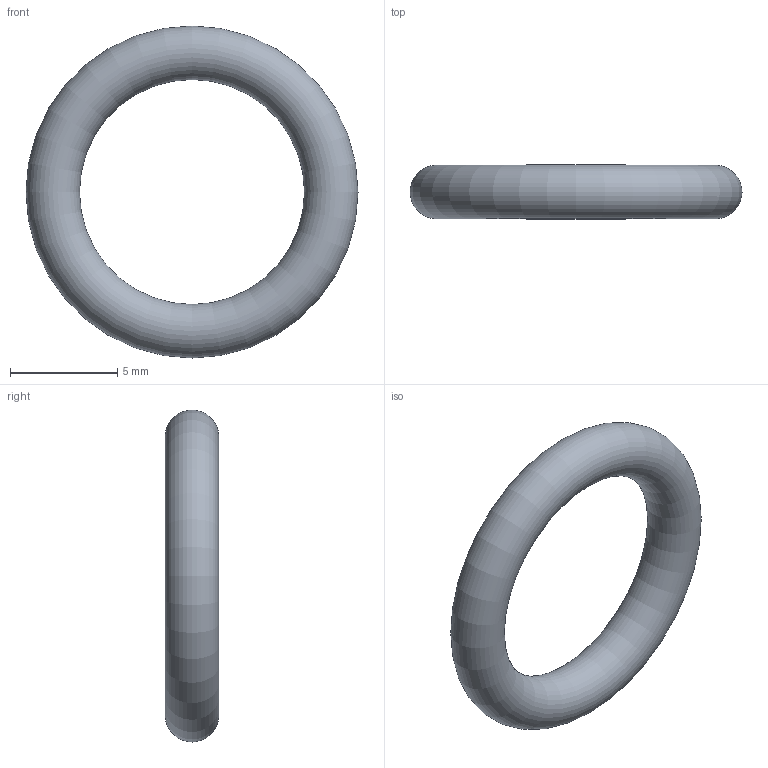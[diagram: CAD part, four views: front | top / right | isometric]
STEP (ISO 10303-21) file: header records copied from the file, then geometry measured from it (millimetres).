
FILE_DESCRIPTION( ( 'STEP AP203' ), '1' );
FILE_NAME( 'C:/Temp/Ganter_Step_05_03_2020/data/3_5/or638/O-Ring OR638-10.50-2.50-70.stp', '2020-03-12T13:44:27', ( 'License CC BY-ND 4.0' ), ( 'CADENAS' ), ' ', 'PARTsolutions', ' ' );
FILE_SCHEMA( ( 'CONFIG_CONTROL_DESIGN' ) );
Length unit declared in the file: millimetre
Products named in the file (1): _O-Ring OR638-10.50-2.50-70
Bounding box: 15.5 x 2.5 x 15.5 mm (x, y, z)
Volume: 200.5 mm3; surface area: 320.8 mm2
Topology: 1 solids, 1 shells, 1 faces, 2 edges, 1 vertices
Faces by surface type: torus 1
Entity records: 62 total; most frequent: CC_DESIGN_PERSON_AND_ORGANIZATION_ASSIGNMENT 5, PERSON_AND_ORGANIZATION_ROLE 4, DIRECTION 4, CARTESIAN_POINT 3, DATE_TIME_ROLE 2, CC_DESIGN_DATE_AND_TIME_ASSIGNMENT 2, AXIS2_PLACEMENT_3D 2, DIMENSIONAL_EXPONENTS 2
